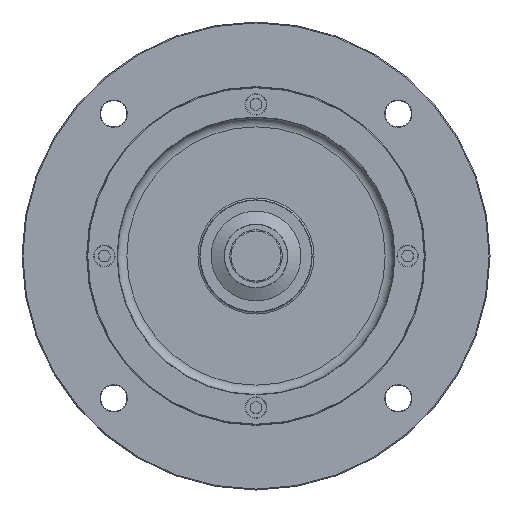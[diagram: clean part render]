
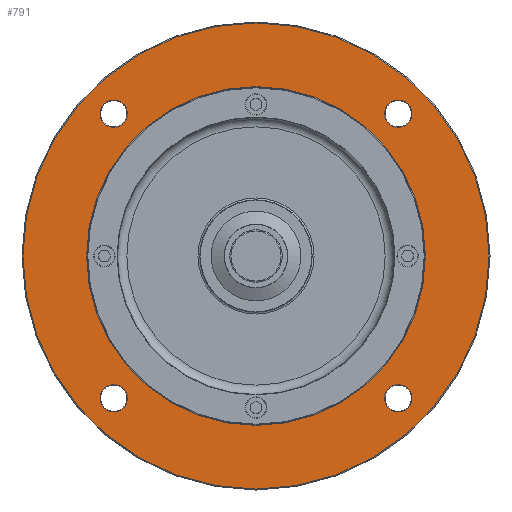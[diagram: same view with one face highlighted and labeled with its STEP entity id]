
A CAD part, front view. The second image highlights one B-rep face of the part: STEP entity #791.
In plain terms, the highlighted planar face has unit normal (0, -1, 0).
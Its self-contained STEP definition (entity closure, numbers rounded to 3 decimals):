
#791=ADVANCED_FACE('',(#1367,#1368,#1369,#1370,#1371,#1167),#1088,.T.);
#1088=PLANE('',#4393);
#1167=FACE_OUTER_BOUND('',#1709,.T.);
#1367=FACE_BOUND('',#1704,.T.);
#1368=FACE_BOUND('',#1705,.T.);
#1369=FACE_BOUND('',#1706,.T.);
#1370=FACE_BOUND('',#1707,.T.);
#1371=FACE_BOUND('',#1708,.T.);
#1704=EDGE_LOOP('',(#2234));
#1705=EDGE_LOOP('',(#2235));
#1706=EDGE_LOOP('',(#2236));
#1707=EDGE_LOOP('',(#2237));
#1708=EDGE_LOOP('',(#2238));
#1709=EDGE_LOOP('',(#2239));
#2234=ORIENTED_EDGE('',*,*,#3560,.T.);
#2235=ORIENTED_EDGE('',*,*,#3561,.T.);
#2236=ORIENTED_EDGE('',*,*,#3562,.T.);
#2237=ORIENTED_EDGE('',*,*,#3563,.T.);
#2238=ORIENTED_EDGE('',*,*,#3564,.T.);
#2239=ORIENTED_EDGE('',*,*,#3565,.T.);
#3174=VERTEX_POINT('',#6503);
#3175=VERTEX_POINT('',#6505);
#3176=VERTEX_POINT('',#6507);
#3177=VERTEX_POINT('',#6509);
#3178=VERTEX_POINT('',#6511);
#3179=VERTEX_POINT('',#6513);
#3560=EDGE_CURVE('',#3174,#3174,#4030,.T.);
#3561=EDGE_CURVE('',#3175,#3175,#4031,.T.);
#3562=EDGE_CURVE('',#3176,#3176,#4032,.T.);
#3563=EDGE_CURVE('',#3177,#3177,#4033,.T.);
#3564=EDGE_CURVE('',#3178,#3178,#4034,.T.);
#3565=EDGE_CURVE('',#3179,#3179,#4035,.T.);
#4030=CIRCLE('',#4387,90.5);
#4031=CIRCLE('',#4388,7.3);
#4032=CIRCLE('',#4389,7.3);
#4033=CIRCLE('',#4390,7.3);
#4034=CIRCLE('',#4391,7.3);
#4035=CIRCLE('',#4392,124.5);
#4387=AXIS2_PLACEMENT_3D('',#6502,#5060,#5061);
#4388=AXIS2_PLACEMENT_3D('',#6504,#5062,#5063);
#4389=AXIS2_PLACEMENT_3D('',#6506,#5064,#5065);
#4390=AXIS2_PLACEMENT_3D('',#6508,#5066,#5067);
#4391=AXIS2_PLACEMENT_3D('',#6510,#5068,#5069);
#4392=AXIS2_PLACEMENT_3D('',#6512,#5070,#5071);
#4393=AXIS2_PLACEMENT_3D('',#6514,#5072,#5073);
#5060=DIRECTION('',(0.,1.,0.));
#5061=DIRECTION('',(0.,0.,-1.));
#5062=DIRECTION('',(0.,1.,0.));
#5063=DIRECTION('',(0.,0.,-1.));
#5064=DIRECTION('',(0.,1.,0.));
#5065=DIRECTION('',(0.,0.,-1.));
#5066=DIRECTION('',(0.,1.,0.));
#5067=DIRECTION('',(0.,0.,-1.));
#5068=DIRECTION('',(0.,1.,0.));
#5069=DIRECTION('',(0.,0.,-1.));
#5070=DIRECTION('',(0.,-1.,0.));
#5071=DIRECTION('',(0.,0.,-1.));
#5072=DIRECTION('',(0.,-1.,0.));
#5073=DIRECTION('',(0.,0.,-1.));
#6502=CARTESIAN_POINT('',(0.,0.,0.));
#6503=CARTESIAN_POINT('',(0.,0.,-90.5));
#6504=CARTESIAN_POINT('',(76.014,0.,76.014));
#6505=CARTESIAN_POINT('',(76.014,0.,68.714));
#6506=CARTESIAN_POINT('',(76.014,0.,-76.014));
#6507=CARTESIAN_POINT('',(76.014,0.,-83.314));
#6508=CARTESIAN_POINT('',(-76.014,0.,-76.014));
#6509=CARTESIAN_POINT('',(-76.014,0.,-83.314));
#6510=CARTESIAN_POINT('',(-76.014,0.,76.014));
#6511=CARTESIAN_POINT('',(-76.014,0.,68.714));
#6512=CARTESIAN_POINT('',(0.,0.,0.));
#6513=CARTESIAN_POINT('',(0.,0.,-124.5));
#6514=CARTESIAN_POINT('',(0.,0.,0.));
